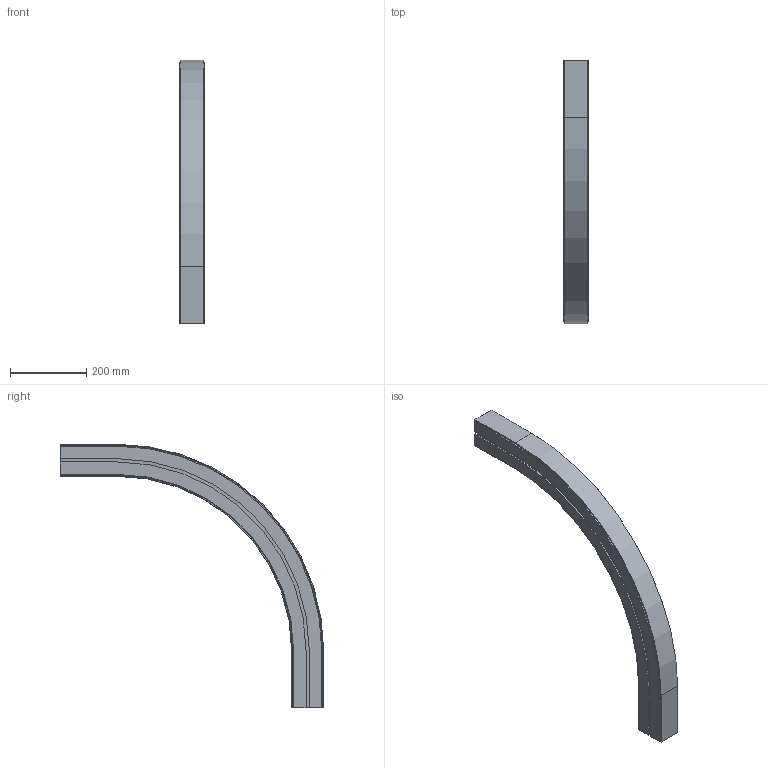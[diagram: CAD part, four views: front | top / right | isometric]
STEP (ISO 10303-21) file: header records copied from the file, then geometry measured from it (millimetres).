
FILE_DESCRIPTION (( 'STEP AP214' ), '1' );
FILE_NAME ('CS SL Verticaalbocht.65 90°.STEP', '2017-02-08T07:37:22', ( '' ), ( '' ), 'SwSTEP 2.0', 'SolidWorks 2016', '' );
FILE_SCHEMA (( 'AUTOMOTIVE_DESIGN' ));
Length unit declared in the file: millimetre
Products named in the file (1): CS SL Verticaalbocht.65 90°
Bounding box: 65 x 692 x 692 mm (x, y, z)
Volume: 5486286.1 mm3; surface area: 448566.5 mm2
Topology: 1 solids, 1 shells, 98 faces, 272 edges, 176 vertices
Faces by surface type: plane 72, cylinder 18, cone 8
Entity records: 3126 total; most frequent: CARTESIAN_POINT 547, ORIENTED_EDGE 544, DIRECTION 514, EDGE_CURVE 272, VECTOR 228, LINE 228, VERTEX_POINT 176, AXIS2_PLACEMENT_3D 143
